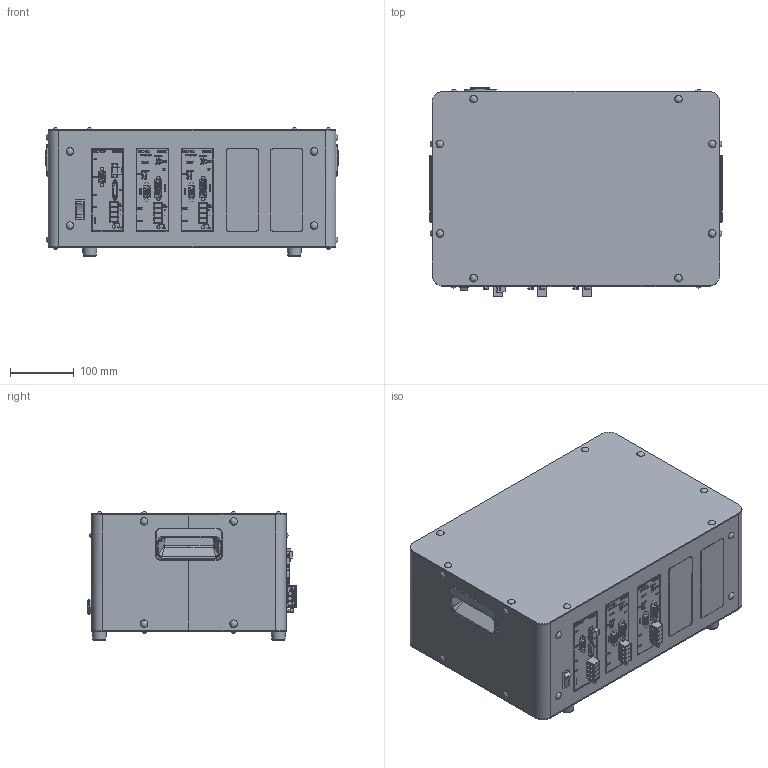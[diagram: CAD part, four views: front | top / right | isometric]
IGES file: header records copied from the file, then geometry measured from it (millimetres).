
Global section: file name: HIT-PKG-02_IGS; native system: Autodesk Inventor 2023; preprocessor: unknown; author: ta.shimizu; date: 20240508.141451; units: millimetre
Bounding box: 458 x 326.6 x 201.2 mm (x, y, z)
Volume: 25136299.1 mm3; surface area: 579028.6 mm2
Topology: 1 solids, 1 shells, 4462 faces, 12158 edges, 8002 vertices
Faces by surface type: bspline 4462
